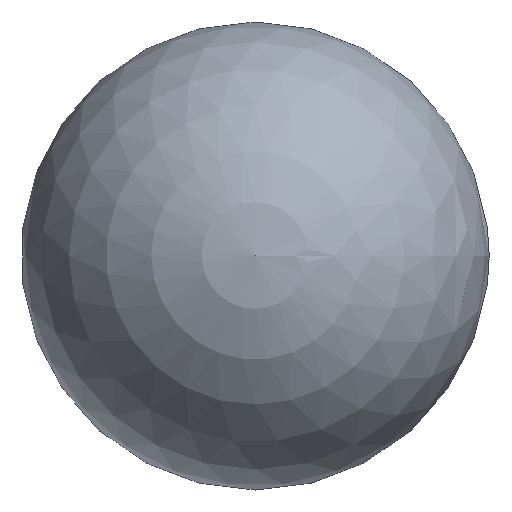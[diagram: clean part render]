
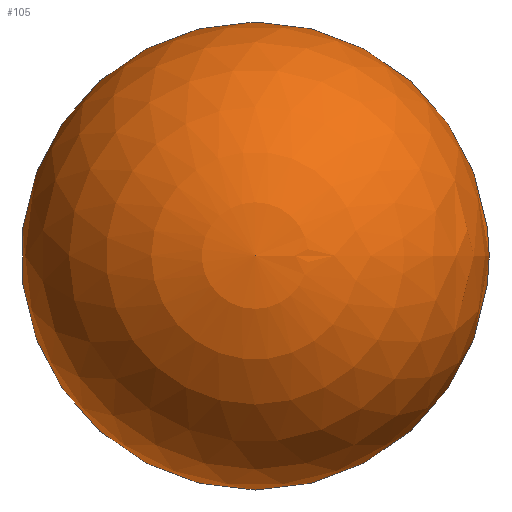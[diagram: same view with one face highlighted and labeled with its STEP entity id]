
A CAD part, top view. The second image highlights one B-rep face of the part: STEP entity #105.
In plain terms, the highlighted spherical face has radius 17.37 mm.
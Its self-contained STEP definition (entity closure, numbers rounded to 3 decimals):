
#21 = EDGE_CURVE('',#22,#22,#24,.T.);
#22 = VERTEX_POINT('',#23);
#23 = CARTESIAN_POINT('',(6.51,0.,-16.104));
#24 = SURFACE_CURVE('',#25,(#30,#42),.PCURVE_S1.);
#25 = CIRCLE('',#26,6.51);
#26 = AXIS2_PLACEMENT_3D('',#27,#28,#29);
#27 = CARTESIAN_POINT('',(0.,0.,-16.104));
#28 = DIRECTION('',(0.,0.,1.));
#29 = DIRECTION('',(0.,-1.,0.));
#30 = PCURVE('',#31,#36);
#31 = CYLINDRICAL_SURFACE('',#32,6.51);
#32 = AXIS2_PLACEMENT_3D('',#33,#34,#35);
#33 = CARTESIAN_POINT('',(0.,0.,-82.5));
#34 = DIRECTION('',(0.,0.,1.));
#35 = DIRECTION('',(1.,0.,0.));
#36 = DEFINITIONAL_REPRESENTATION('',(#37),#41);
#37 = LINE('',#38,#39);
#38 = CARTESIAN_POINT('',(-1.571,66.396));
#39 = VECTOR('',#40,1.);
#40 = DIRECTION('',(1.,0.));
#41 = ( GEOMETRIC_REPRESENTATION_CONTEXT(2) 
PARAMETRIC_REPRESENTATION_CONTEXT() REPRESENTATION_CONTEXT('2D SPACE',''
  ) );
#42 = PCURVE('',#43,#48);
#43 = SPHERICAL_SURFACE('',#44,17.37);
#44 = AXIS2_PLACEMENT_3D('',#45,#46,#47);
#45 = CARTESIAN_POINT('',(0.,0.,0.));
#46 = DIRECTION('',(0.,0.,1.));
#47 = DIRECTION('',(1.,0.,0.));
#48 = DEFINITIONAL_REPRESENTATION('',(#49),#53);
#49 = LINE('',#50,#51);
#50 = CARTESIAN_POINT('',(-1.571,-1.187));
#51 = VECTOR('',#52,1.);
#52 = DIRECTION('',(1.,0.));
#53 = ( GEOMETRIC_REPRESENTATION_CONTEXT(2) 
PARAMETRIC_REPRESENTATION_CONTEXT() REPRESENTATION_CONTEXT('2D SPACE',''
  ) );
#105 = ADVANCED_FACE('',(#106),#43,.T.);
#106 = FACE_BOUND('',#107,.T.);
#107 = EDGE_LOOP('',(#108,#132,#133));
#108 = ORIENTED_EDGE('',*,*,#109,.T.);
#109 = EDGE_CURVE('',#22,#110,#112,.T.);
#110 = VERTEX_POINT('',#111);
#111 = CARTESIAN_POINT('',(0.,0.,17.37)
  );
#112 = SEAM_CURVE('',#113,(#118,#125),.PCURVE_S1.);
#113 = CIRCLE('',#114,17.37);
#114 = AXIS2_PLACEMENT_3D('',#115,#116,#117);
#115 = CARTESIAN_POINT('',(0.,0.,0.));
#116 = DIRECTION('',(0.,-1.,0.));
#117 = DIRECTION('',(1.,0.,0.));
#118 = PCURVE('',#43,#119);
#119 = DEFINITIONAL_REPRESENTATION('',(#120),#124);
#120 = LINE('',#121,#122);
#121 = CARTESIAN_POINT('',(6.283,-6.283));
#122 = VECTOR('',#123,1.);
#123 = DIRECTION('',(0.,1.));
#124 = ( GEOMETRIC_REPRESENTATION_CONTEXT(2) 
PARAMETRIC_REPRESENTATION_CONTEXT() REPRESENTATION_CONTEXT('2D SPACE',''
  ) );
#125 = PCURVE('',#43,#126);
#126 = DEFINITIONAL_REPRESENTATION('',(#127),#131);
#127 = LINE('',#128,#129);
#128 = CARTESIAN_POINT('',(0.,-6.283));
#129 = VECTOR('',#130,1.);
#130 = DIRECTION('',(0.,1.));
#131 = ( GEOMETRIC_REPRESENTATION_CONTEXT(2) 
PARAMETRIC_REPRESENTATION_CONTEXT() REPRESENTATION_CONTEXT('2D SPACE',''
  ) );
#132 = ORIENTED_EDGE('',*,*,#109,.F.);
#133 = ORIENTED_EDGE('',*,*,#21,.T.);
